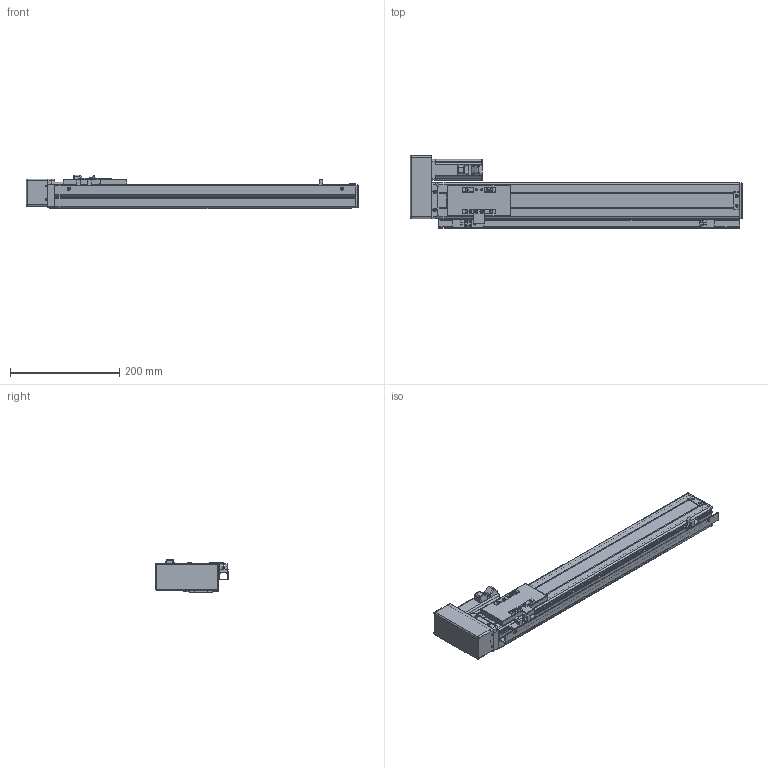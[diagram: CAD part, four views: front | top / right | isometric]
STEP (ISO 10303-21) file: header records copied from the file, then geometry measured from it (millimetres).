
FILE_DESCRIPTION (( 'STEP AP203' ), '1' );
FILE_NAME ('VT6-L10-C-S400-BR-P10-D4.STEP', '2015-10-26T06:16:45', ( '' ), ( '' ), 'SwSTEP 2.0', 'SolidWorks 2013', '' );
FILE_SCHEMA (( 'CONFIG_CONTROL_DESIGN' ));
Length unit declared in the file: millimetre
Products named in the file (17): T6-裔啣; T6-揤輸; T6-綴傷裔; ET6-BLRM絳寢_俴最400; ET6-BLRM滅鳥湍_400; ET6-BLRM佪裝_400; T6-BMLRヶ傷裔; T6-BMRLヶ傷裔揤啣; T6-BMRL肮祭湍謫欶; 侂狟100W MSMD012G1U; T6-BRL萇儂假蚾啣; T6-覜茼え; ET6-BC癹弇羲壽羞_400; EE-XS674; VT6-L10-C-S400-BR-P10-D4; ET6-BC耜啣_400; T6-賑雄殤
Assembly tree (19 placements, depth 2):
  VT6-L10-C-S400-BR-P10-D4
    ET6-BC耜啣_400  x2
    T6-賑雄殤
    T6-裔啣
    T6-揤輸
    T6-綴傷裔
    ET6-BLRM絳寢_俴最400
    ET6-BLRM滅鳥湍_400
    ET6-BLRM佪裝_400
    T6-BMLRヶ傷裔
    T6-BMRLヶ傷裔揤啣
    T6-BMRL肮祭湍謫欶
    侂狟100W MSMD012G1U
    T6-BRL萇儂假蚾啣
    T6-覜茼え
    ET6-BC癹弇羲壽羞_400
    EE-XS674  x3
Bounding box: 607 x 133 x 61 mm (x, y, z)
Volume: 777723.9 mm3; surface area: 481092.3 mm2
Topology: 19 solids, 19 shells, 897 faces, 2376 edges, 1504 vertices
Faces by surface type: cylinder 423, plane 374, cone 46, torus 36, sphere 18
Entity records: 27693 total; most frequent: CARTESIAN_POINT 4657, DIRECTION 4630, ORIENTED_EDGE 4270, EDGE_CURVE 2135, AXIS2_PLACEMENT_3D 1697, VERTEX_POINT 1364, LINE 1236, VECTOR 1236
